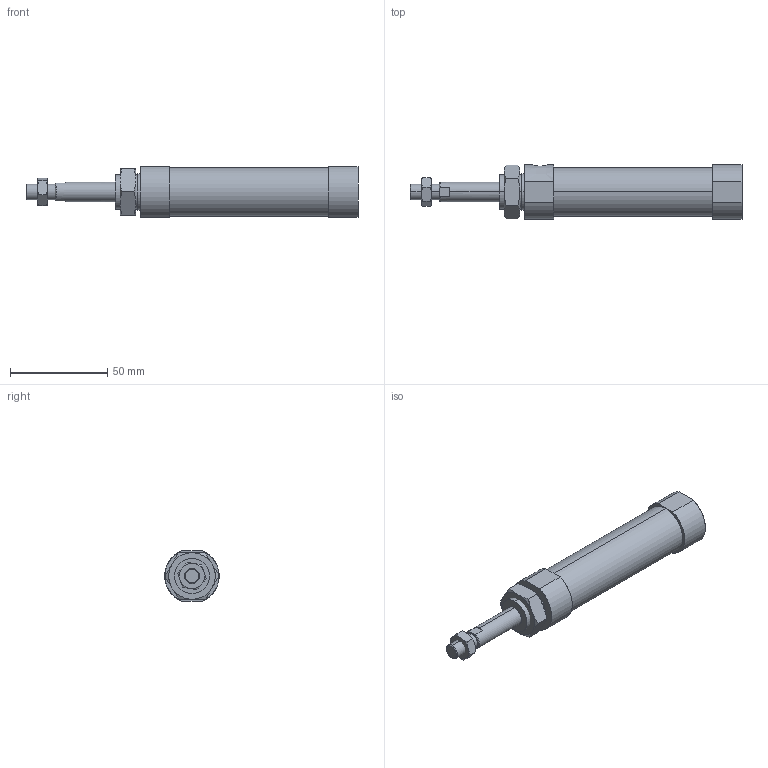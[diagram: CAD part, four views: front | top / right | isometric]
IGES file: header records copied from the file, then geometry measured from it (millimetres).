
Start section: SolidWorks IGES file using analytic representation for surfaces
Global section: file name: C:\Users\Toshiba\Desktop\JGND0-20-25-N.IGS; native system: SolidWorks 2014; preprocessor: SolidWorks 2014; author: Toshiba; date: 160804.100420; units: millimetre
Bounding box: 171 x 28 x 26 mm (x, y, z)
Surface area: 15071.7 mm2 (no closed solid volume)
Topology: 0 solids, 0 shells, 81 faces, 1362 edges, 1362 vertices
Faces by surface type: bspline 57, revolution 24
